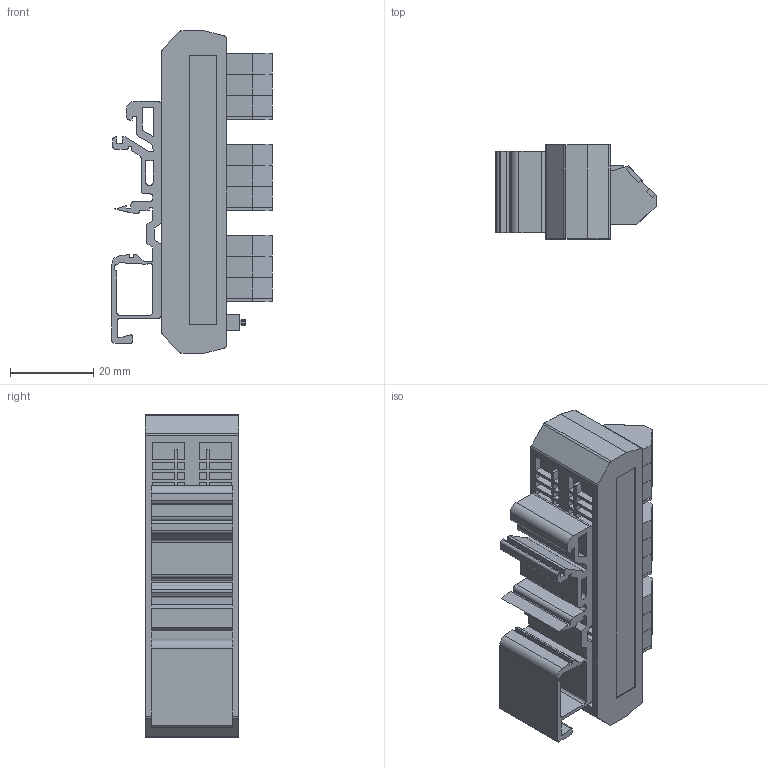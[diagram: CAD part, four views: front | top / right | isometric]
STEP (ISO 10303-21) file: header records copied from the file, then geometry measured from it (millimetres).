
FILE_DESCRIPTION(('STEP AP214'), '1');
FILE_NAME('RS-SPLIT-3P 瞁碢礵礵礵迋迋迋', '', ('UNSPECIFIED'), ('UNSPECIFIED'), 'C3D Converter', 'C3D Toolkit', '');
FILE_SCHEMA(('AUTOMOTIVE_DESIGN { 1 0 10303 214 3 1 1}'));
Length unit declared in the file: millimetre
Bounding box: 38.4 x 22.5 x 77.4 mm (x, y, z)
Volume: 32343.4 mm3; surface area: 23437.1 mm2
Topology: 5 solids, 73 shells, 1875 faces, 4899 edges, 3230 vertices
Faces by surface type: plane 1707, cylinder 148, sphere 16, torus 4
Entity records: 71601 total; most frequent: CARTESIAN_POINT 10158, ORIENTED_EDGE 9766, DIRECTION 8920, EDGE_CURVE 4883, LINE 4570, VECTOR 4570, VERTEX_POINT 3230, AXIS2_PLACEMENT_3D 2175
